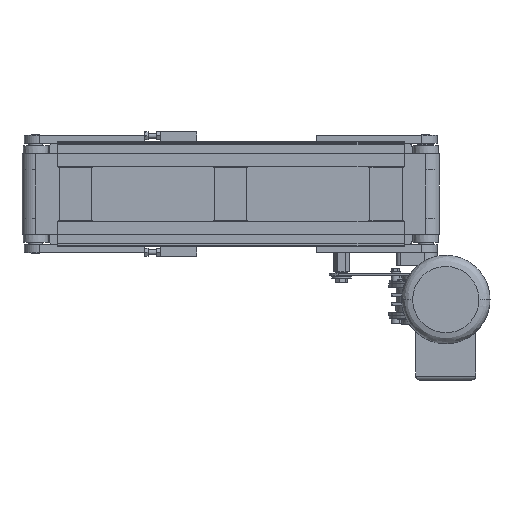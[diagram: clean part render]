
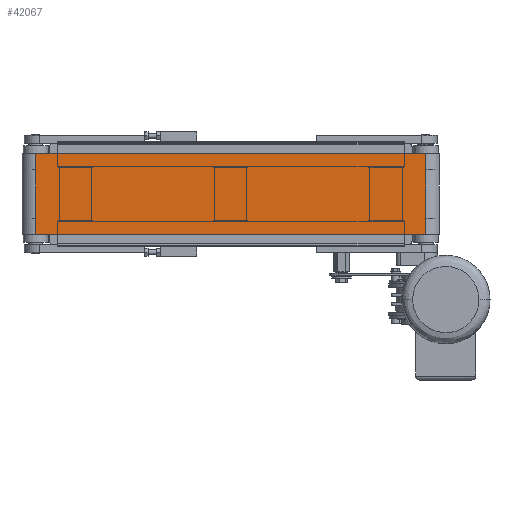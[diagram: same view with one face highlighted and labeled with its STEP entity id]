
A CAD part, front view. The second image highlights one B-rep face of the part: STEP entity #42067.
In plain terms, the highlighted planar face has unit normal (0, -1, 0).
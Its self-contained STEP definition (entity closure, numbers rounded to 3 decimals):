
#1593 = AXIS2_PLACEMENT_3D ( 'NONE', #12159, #26567, #27291 ) ;
#3092 = VECTOR ( 'NONE', #44719, 1000. ) ;
#6638 = CARTESIAN_POINT ( 'NONE',  ( -243., -17., -50. ) ) ;
#8173 = ORIENTED_EDGE ( 'NONE', *, *, #15698, .F. ) ;
#11101 = VERTEX_POINT ( 'NONE', #44294 ) ;
#11849 = DIRECTION ( 'NONE',  ( 0., 0., -1. ) ) ;
#12157 = VERTEX_POINT ( 'NONE', #24682 ) ;
#12159 = CARTESIAN_POINT ( 'NONE',  ( -243., -17., 50. ) ) ;
#15180 = PLANE ( 'NONE',  #1593 ) ;
#15698 = EDGE_CURVE ( 'NONE', #11101, #12157, #36313, .T. ) ;
#16714 = VECTOR ( 'NONE', #11849, 1000. ) ;
#18102 = EDGE_CURVE ( 'NONE', #32647, #33774, #42899, .T. ) ;
#19612 = FACE_OUTER_BOUND ( 'NONE', #48966, .T. ) ;
#20927 = DIRECTION ( 'NONE',  ( 1., 0., 0. ) ) ;
#23370 = CARTESIAN_POINT ( 'NONE',  ( 243., -17., -50. ) ) ;
#24648 = CARTESIAN_POINT ( 'NONE',  ( -243., -17., 50. ) ) ;
#24682 = CARTESIAN_POINT ( 'NONE',  ( 243., -17., 50. ) ) ;
#26567 = DIRECTION ( 'NONE',  ( 0., 1., 0. ) ) ;
#26990 = LINE ( 'NONE', #41404, #16714 ) ;
#27073 = ORIENTED_EDGE ( 'NONE', *, *, #18102, .T. ) ;
#27291 = DIRECTION ( 'NONE',  ( 0., 0., 1. ) ) ;
#28975 = VECTOR ( 'NONE', #20927, 1000. ) ;
#31500 = DIRECTION ( 'NONE',  ( 1., 0., 0. ) ) ;
#32647 = VERTEX_POINT ( 'NONE', #6638 ) ;
#33292 = CARTESIAN_POINT ( 'NONE',  ( 243., -17., 50. ) ) ;
#33774 = VERTEX_POINT ( 'NONE', #23370 ) ;
#36313 = LINE ( 'NONE', #24648, #28975 ) ;
#38901 = ORIENTED_EDGE ( 'NONE', *, *, #40601, .F. ) ;
#40416 = VECTOR ( 'NONE', #31500, 1000. ) ;
#40601 = EDGE_CURVE ( 'NONE', #12157, #33774, #48200, .T. ) ;
#41404 = CARTESIAN_POINT ( 'NONE',  ( -243., -17., 50. ) ) ;
#42067 = ADVANCED_FACE ( 'NONE', ( #19612 ), #15180, .F. ) ;
#42412 = ORIENTED_EDGE ( 'NONE', *, *, #42474, .T. ) ;
#42474 = EDGE_CURVE ( 'NONE', #11101, #32647, #26990, .T. ) ;
#42899 = LINE ( 'NONE', #46153, #40416 ) ;
#44294 = CARTESIAN_POINT ( 'NONE',  ( -243., -17., 50. ) ) ;
#44719 = DIRECTION ( 'NONE',  ( 0., 0., -1. ) ) ;
#46153 = CARTESIAN_POINT ( 'NONE',  ( -243., -17., -50. ) ) ;
#48200 = LINE ( 'NONE', #33292, #3092 ) ;
#48966 = EDGE_LOOP ( 'NONE', ( #27073, #38901, #8173, #42412 ) ) ;
